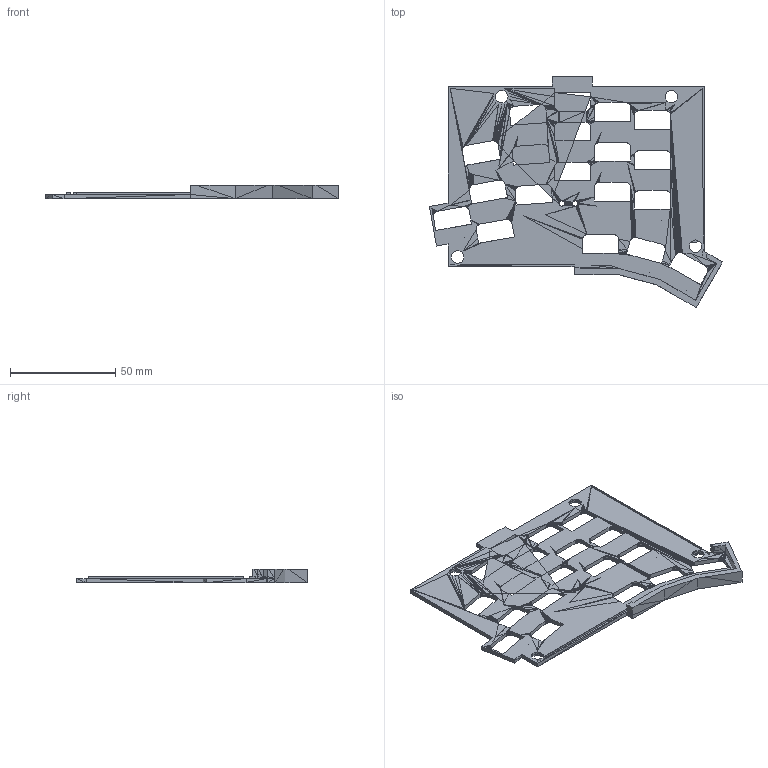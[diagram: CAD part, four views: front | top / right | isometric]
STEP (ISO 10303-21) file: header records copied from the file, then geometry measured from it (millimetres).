
FILE_DESCRIPTION(/* description */ (''),/* implementation_level */ '2;1');
FILE_NAME(/* name */ 'totemx_lp_bottom.step',/* time_stamp */ '2025-11-29T17:27:08-08:00',/* author */ (''),/* organization */ (''),/* preprocessor_version */ 'ST-DEVELOPER v20.1',/* originating_system */ 'Autodesk Translation Framework v14.21.0.0',/* authorisation */ '');
FILE_SCHEMA (('AUTOMOTIVE_DESIGN { 1 0 10303 214 3 1 1 }'));
Products named in the file (2): fix switch hole;  STEP translator 7.5 1.3
Assembly tree (1 placements, depth 2):
  fix switch hole
     STEP translator 7.5 1.3
Bounding box: 139.26 x 109.89 x 6.4 mm (x, y, z)
Surface area: 20966.9 mm2
Topology: 1 solids, 4 shells, 4309 faces, 8466 edges, 4112 vertices
Faces by surface type: plane 4309
Entity records: 109635 total; most frequent: ORIENTED_EDGE 18620, CARTESIAN_POINT 18576, DIRECTION 17934, LINE 9310, VECTOR 9310, EDGE_CURVE 9310, VERTEX_POINT 4954, EDGE_LOOP 4321
